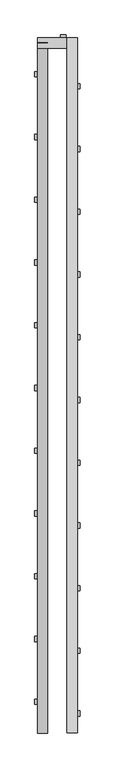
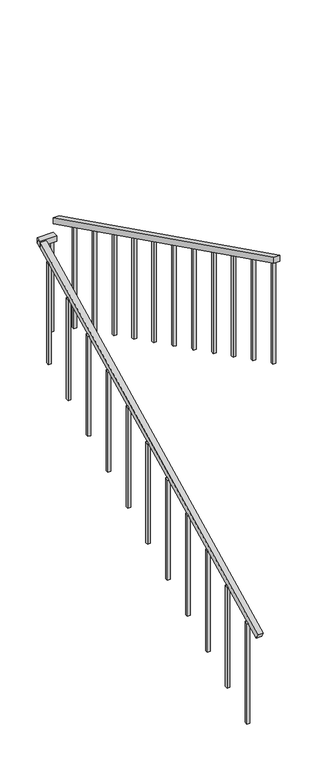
"""IFC4 building model written with IfcOpenShell, lengths in millimetres: railing geometry, ADSK_Стандартное_h 900 Поручень квадратный без направляющих."""

from ifc_helpers import new_model, si_unit, frame, origin, place, context, project, spatial, polyline, outline, extrude, source, transform, mapped, element, save


def railing_d2b8c903(model_context):
    return source(origin(), model_context, "Body", "SweptSolid", [
        extrude(outline(polyline([(0.0, -50.0), (0.0, 0.0), (3685.421825, 0.0), (3685.421825, -50.0), (0.0, -50.0)])), frame((-1808.1240021, 16541.6973966, 1004.3956722), z_axis=(0.0, -0.445222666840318, 0.895419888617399), x_axis=(0.0, 0.895419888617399, 0.445222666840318)), (0.0, 0.0, 1.0), 50.0),
        extrude(outline(polyline([(-1808.1240021, 19794.8362632), (-1808.1240021, 19844.8362632), (-1666.5240021, 19844.8362632), (-1666.5240021, 19794.8362632), (-1808.1240021, 19794.8362632)])), frame((0.0, 0.0, 2640.0), z_axis=(0.0, 0.0, 1.0), x_axis=(1.0, 0.0, 0.0)), (0.0, 0.0, 1.0), 50.0),
        extrude(outline(polyline([(19844.8362632, 2826.5372222), (19844.8362632, 2770.6974976), (16519.4362632, 4424.1602754), (16519.4362632, 4480.0), (19844.8362632, 2826.5372222)])), frame((-1666.5240021, 0.0, 0.0), z_axis=(1.0, 0.0, 0.0), x_axis=(0.0, 1.0, 0.0)), (0.0, 0.0, 1.0), 50.0),
        extrude(outline(polyline([(16624.3362632, 4377.8413889), (16624.3362632, 3430.8333333), (16599.3362632, 3430.8333333), (16599.3362632, 4390.2719444), (16624.3362632, 4377.8413889)])), frame((-1629.0240021, 0.0, 0.0), z_axis=(1.0, 0.0, 0.0), x_axis=(0.0, 1.0, 0.0)), (0.0, 0.0, 1.0), 25.0),
        extrude(outline(polyline([(16924.3362632, 4228.6747222), (16924.3362632, 3281.6666667), (16899.3362632, 3281.6666667), (16899.3362632, 4241.1052778), (16924.3362632, 4228.6747222)])), frame((-1629.0240021, 0.0, 0.0), z_axis=(1.0, 0.0, 0.0), x_axis=(0.0, 1.0, 0.0)), (0.0, 0.0, 1.0), 25.0),
        extrude(outline(polyline([(17224.3362632, 4079.5080556), (17224.3362632, 3132.5), (17199.3362632, 3132.5), (17199.3362632, 4091.9386111), (17224.3362632, 4079.5080556)])), frame((-1629.0240021, 0.0, 0.0), z_axis=(1.0, 0.0, 0.0), x_axis=(0.0, 1.0, 0.0)), (0.0, 0.0, 1.0), 25.0),
        extrude(outline(polyline([(17524.3362632, 3930.3413889), (17524.3362632, 2983.3333333), (17499.3362632, 2983.3333333), (17499.3362632, 3942.7719444), (17524.3362632, 3930.3413889)])), frame((-1629.0240021, 0.0, 0.0), z_axis=(1.0, 0.0, 0.0), x_axis=(0.0, 1.0, 0.0)), (0.0, 0.0, 1.0), 25.0),
        extrude(outline(polyline([(17824.3362632, 3781.1747222), (17824.3362632, 2834.1666667), (17799.3362632, 2834.1666667), (17799.3362632, 3793.6052778), (17824.3362632, 3781.1747222)])), frame((-1629.0240021, 0.0, 0.0), z_axis=(1.0, 0.0, 0.0), x_axis=(0.0, 1.0, 0.0)), (0.0, 0.0, 1.0), 25.0),
        extrude(outline(polyline([(18124.3362632, 3632.0080556), (18124.3362632, 2685.0), (18099.3362632, 2685.0), (18099.3362632, 3644.4386111), (18124.3362632, 3632.0080556)])), frame((-1629.0240021, 0.0, 0.0), z_axis=(1.0, 0.0, 0.0), x_axis=(0.0, 1.0, 0.0)), (0.0, 0.0, 1.0), 25.0),
        extrude(outline(polyline([(18424.3362632, 3482.8413889), (18424.3362632, 2535.8333333), (18399.3362632, 2535.8333333), (18399.3362632, 3495.2719444), (18424.3362632, 3482.8413889)])), frame((-1629.0240021, 0.0, 0.0), z_axis=(1.0, 0.0, 0.0), x_axis=(0.0, 1.0, 0.0)), (0.0, 0.0, 1.0), 25.0),
        extrude(outline(polyline([(18724.3362632, 3333.6747222), (18724.3362632, 2386.6666667), (18699.3362632, 2386.6666667), (18699.3362632, 3346.1052778), (18724.3362632, 3333.6747222)])), frame((-1629.0240021, 0.0, 0.0), z_axis=(1.0, 0.0, 0.0), x_axis=(0.0, 1.0, 0.0)), (0.0, 0.0, 1.0), 25.0),
        extrude(outline(polyline([(19024.3362632, 3184.5080556), (19024.3362632, 2237.5), (18999.3362632, 2237.5), (18999.3362632, 3196.9386111), (19024.3362632, 3184.5080556)])), frame((-1629.0240021, 0.0, 0.0), z_axis=(1.0, 0.0, 0.0), x_axis=(0.0, 1.0, 0.0)), (0.0, 0.0, 1.0), 25.0),
        extrude(outline(polyline([(19324.3362632, 3035.3413889), (19324.3362632, 2088.3333333), (19299.3362632, 2088.3333333), (19299.3362632, 3047.7719444), (19324.3362632, 3035.3413889)])), frame((-1629.0240021, 0.0, 0.0), z_axis=(1.0, 0.0, 0.0), x_axis=(0.0, 1.0, 0.0)), (0.0, 0.0, 1.0), 25.0),
        extrude(outline(polyline([(19624.3362632, 2886.1747222), (19624.3362632, 1939.1666667), (19599.3362632, 1939.1666667), (19599.3362632, 2898.6052778), (19624.3362632, 2886.1747222)])), frame((-1629.0240021, 0.0, 0.0), z_axis=(1.0, 0.0, 0.0), x_axis=(0.0, 1.0, 0.0)), (0.0, 0.0, 1.0), 25.0),
        extrude(outline(polyline([(-1696.0240021, 19832.3362632), (-1696.0240021, 19857.3362632), (-1671.0240021, 19857.3362632), (-1671.0240021, 19832.3362632), (-1696.0240021, 19832.3362632)])), frame((0.0, 0.0, 1790.0), z_axis=(0.0, 0.0, 1.0), x_axis=(1.0, 0.0, 0.0)), (0.0, 0.0, 1.0), 850.0),
        extrude(outline(polyline([(19656.9362632, 1640.8333333), (19656.9362632, 2559.2013889), (19681.9362632, 2571.6319444), (19681.9362632, 1640.8333333), (19656.9362632, 1640.8333333)])), frame((-1820.6240021, 0.0, 0.0), z_axis=(1.0, 0.0, 0.0), x_axis=(0.0, 1.0, 0.0)), (0.0, 0.0, 1.0), 25.0),
        extrude(outline(polyline([(19356.9362632, 1491.6666667), (19356.9362632, 2410.0347222), (19381.9362632, 2422.4652778), (19381.9362632, 1491.6666667), (19356.9362632, 1491.6666667)])), frame((-1820.6240021, 0.0, 0.0), z_axis=(1.0, 0.0, 0.0), x_axis=(0.0, 1.0, 0.0)), (0.0, 0.0, 1.0), 25.0),
        extrude(outline(polyline([(19056.9362632, 1342.5), (19056.9362632, 2260.8680556), (19081.9362632, 2273.2986111), (19081.9362632, 1342.5), (19056.9362632, 1342.5)])), frame((-1820.6240021, 0.0, 0.0), z_axis=(1.0, 0.0, 0.0), x_axis=(0.0, 1.0, 0.0)), (0.0, 0.0, 1.0), 25.0),
        extrude(outline(polyline([(18756.9362632, 1193.3333333), (18756.9362632, 2111.7013889), (18781.9362632, 2124.1319444), (18781.9362632, 1193.3333333), (18756.9362632, 1193.3333333)])), frame((-1820.6240021, 0.0, 0.0), z_axis=(1.0, 0.0, 0.0), x_axis=(0.0, 1.0, 0.0)), (0.0, 0.0, 1.0), 25.0),
        extrude(outline(polyline([(18456.9362632, 1044.1666667), (18456.9362632, 1962.5347222), (18481.9362632, 1974.9652778), (18481.9362632, 1044.1666667), (18456.9362632, 1044.1666667)])), frame((-1820.6240021, 0.0, 0.0), z_axis=(1.0, 0.0, 0.0), x_axis=(0.0, 1.0, 0.0)), (0.0, 0.0, 1.0), 25.0),
        extrude(outline(polyline([(18156.9362632, 895.0), (18156.9362632, 1813.3680556), (18181.9362632, 1825.7986111), (18181.9362632, 895.0), (18156.9362632, 895.0)])), frame((-1820.6240021, 0.0, 0.0), z_axis=(1.0, 0.0, 0.0), x_axis=(0.0, 1.0, 0.0)), (0.0, 0.0, 1.0), 25.0),
        extrude(outline(polyline([(17856.9362632, 745.8333333), (17856.9362632, 1664.2013889), (17881.9362632, 1676.6319444), (17881.9362632, 745.8333333), (17856.9362632, 745.8333333)])), frame((-1820.6240021, 0.0, 0.0), z_axis=(1.0, 0.0, 0.0), x_axis=(0.0, 1.0, 0.0)), (0.0, 0.0, 1.0), 25.0),
        extrude(outline(polyline([(17556.9362632, 596.6666667), (17556.9362632, 1515.0347222), (17581.9362632, 1527.4652778), (17581.9362632, 596.6666667), (17556.9362632, 596.6666667)])), frame((-1820.6240021, 0.0, 0.0), z_axis=(1.0, 0.0, 0.0), x_axis=(0.0, 1.0, 0.0)), (0.0, 0.0, 1.0), 25.0),
        extrude(outline(polyline([(17256.9362632, 447.5), (17256.9362632, 1365.8680556), (17281.9362632, 1378.2986111), (17281.9362632, 447.5), (17256.9362632, 447.5)])), frame((-1820.6240021, 0.0, 0.0), z_axis=(1.0, 0.0, 0.0), x_axis=(0.0, 1.0, 0.0)), (0.0, 0.0, 1.0), 25.0),
        extrude(outline(polyline([(16956.9362632, 298.3333333), (16956.9362632, 1216.7013889), (16981.9362632, 1229.1319444), (16981.9362632, 298.3333333), (16956.9362632, 298.3333333)])), frame((-1820.6240021, 0.0, 0.0), z_axis=(1.0, 0.0, 0.0), x_axis=(0.0, 1.0, 0.0)), (0.0, 0.0, 1.0), 25.0),
        extrude(outline(polyline([(16656.9362632, 149.1666667), (16656.9362632, 1067.5347222), (16681.9362632, 1079.9652778), (16681.9362632, 149.1666667), (16656.9362632, 149.1666667)])), frame((-1820.6240021, 0.0, 0.0), z_axis=(1.0, 0.0, 0.0), x_axis=(0.0, 1.0, 0.0)), (0.0, 0.0, 1.0), 25.0),
    ])


if __name__ == "__main__":
    model = new_model("IFC4")
    model_context = context("Model", 3, world=origin())
    ifc_project = project(units=[si_unit("LENGTHUNIT", "METRE", prefix="MILLI")], contexts=[model_context])
    site = spatial("IfcSite", under=ifc_project)
    building = spatial("IfcBuilding", under=site)
    placement = place(None, origin())
    railing_shape = railing_d2b8c903(model_context)
    element("IfcRailing", 1, ObjectType="ADSK_Стандартное_h 900 Поручень квадратный без направляющих", at=placement, inside=building, context=model_context, shape_type="MappedRepresentation", body=[
        mapped(railing_shape, transform((0.0, 0.0, 0.0), x_axis=(1.0, 0.0, 0.0), y_axis=(0.0, 1.0, 0.0), z_axis=(0.0, 0.0, 1.0))),
    ])
    save(model, "model.ifc")
